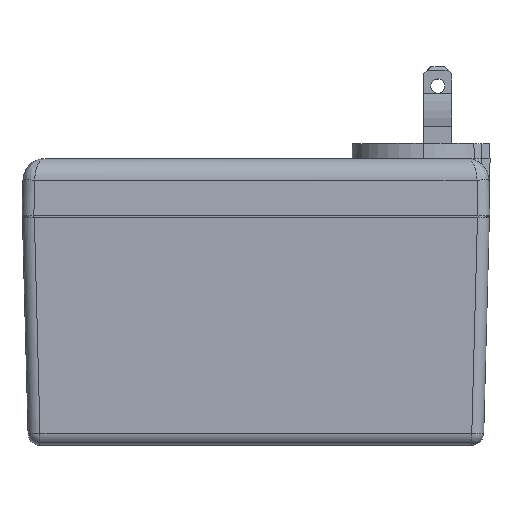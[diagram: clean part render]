
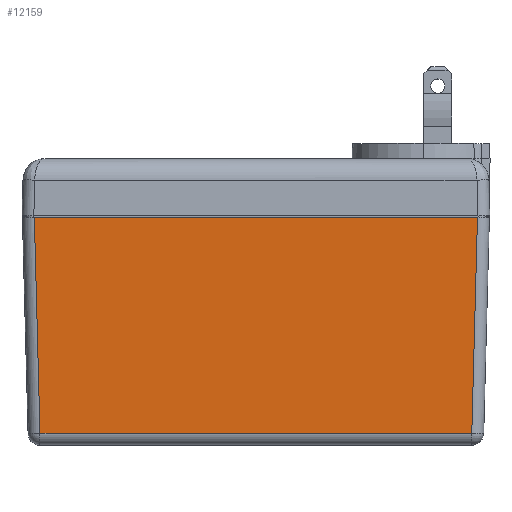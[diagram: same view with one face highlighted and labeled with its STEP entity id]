
A CAD part, top view. The second image highlights one B-rep face of the part: STEP entity #12159.
In plain terms, the highlighted planar face has unit normal (0, -0.026, 1).
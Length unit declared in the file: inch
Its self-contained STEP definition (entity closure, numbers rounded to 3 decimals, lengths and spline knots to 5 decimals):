
#664 = FACE_OUTER_BOUND ( 'NONE', #18835, .T. ) ;
#2152 = DIRECTION ( 'NONE',  ( 1., 0., 0. ) ) ;
#2153 = CARTESIAN_POINT ( 'NONE',  ( -2.0545, 0., 1.116 ) ) ;
#2154 = DIRECTION ( 'NONE',  ( 0.026, -0.999, -0.026 ) ) ;
#2155 = CARTESIAN_POINT ( 'NONE',  ( -1.94961, 0.00274, 1.11607 ) ) ;
#2156 = DIRECTION ( 'NONE',  ( 0.026, 0.999, 0.026 ) ) ;
#2158 = CARTESIAN_POINT ( 'NONE',  ( 1.94679, -0.10471, 1.11326 ) ) ;
#2208 = DIRECTION ( 'NONE',  ( 1., 0., 0. ) ) ;
#2217 = CARTESIAN_POINT ( 'NONE',  ( -2.0545, -1.90275, 1.06617 ) ) ;
#6276 = CARTESIAN_POINT ( 'NONE',  ( 1.94954, 0., 1.116 ) ) ;
#6292 = CARTESIAN_POINT ( 'NONE',  ( -1.89971, -1.90275, 1.06617 ) ) ;
#6294 = CARTESIAN_POINT ( 'NONE',  ( -1.94954, 0., 1.116 ) ) ;
#6359 = CARTESIAN_POINT ( 'NONE',  ( 1.89971, -1.90275, 1.06617 ) ) ;
#9204 = DIRECTION ( 'NONE',  ( 0., -1., -0.026 ) ) ;
#9206 = DIRECTION ( 'NONE',  ( 0., -0.026, 1. ) ) ;
#9210 = PLANE ( 'NONE',  #15215 ) ;
#9212 = CARTESIAN_POINT ( 'NONE',  ( -2.0545, 0., 1.116 ) ) ;
#10347 = EDGE_CURVE ( 'NONE', #19601, #19608, #16003, .T. ) ;
#10361 = EDGE_CURVE ( 'NONE', #19608, #19569, #15958, .T. ) ;
#10362 = EDGE_CURVE ( 'NONE', #19564, #19601, #15954, .T. ) ;
#10363 = EDGE_CURVE ( 'NONE', #19564, #19569, #15951, .T. ) ;
#12159 = ADVANCED_FACE ( 'NONE', ( #664 ), #9210, .T. ) ;
#15215 = AXIS2_PLACEMENT_3D ( 'NONE', #9212, #9206, #9204 ) ;
#15949 = VECTOR ( 'NONE', #2152, 39.37008 ) ;
#15951 = LINE ( 'NONE', #2153, #15949 ) ;
#15953 = VECTOR ( 'NONE', #2154, 39.37008 ) ;
#15954 = LINE ( 'NONE', #2155, #15953 ) ;
#15957 = VECTOR ( 'NONE', #2156, 39.37008 ) ;
#15958 = LINE ( 'NONE', #2158, #15957 ) ;
#16003 = LINE ( 'NONE', #2217, #16009 ) ;
#16009 = VECTOR ( 'NONE', #2208, 39.37008 ) ;
#18351 = ORIENTED_EDGE ( 'NONE', *, *, #10362, .T. ) ;
#18352 = ORIENTED_EDGE ( 'NONE', *, *, #10363, .F. ) ;
#18353 = ORIENTED_EDGE ( 'NONE', *, *, #10361, .T. ) ;
#18354 = ORIENTED_EDGE ( 'NONE', *, *, #10347, .T. ) ;
#18835 = EDGE_LOOP ( 'NONE', ( #18354, #18353, #18352, #18351 ) ) ;
#19564 = VERTEX_POINT ( 'NONE', #6294 ) ;
#19569 = VERTEX_POINT ( 'NONE', #6276 ) ;
#19601 = VERTEX_POINT ( 'NONE', #6292 ) ;
#19608 = VERTEX_POINT ( 'NONE', #6359 ) ;
